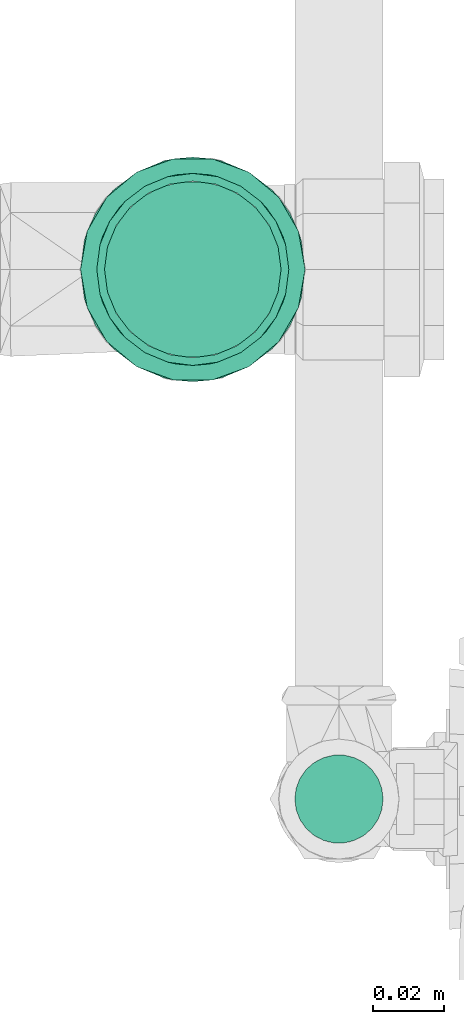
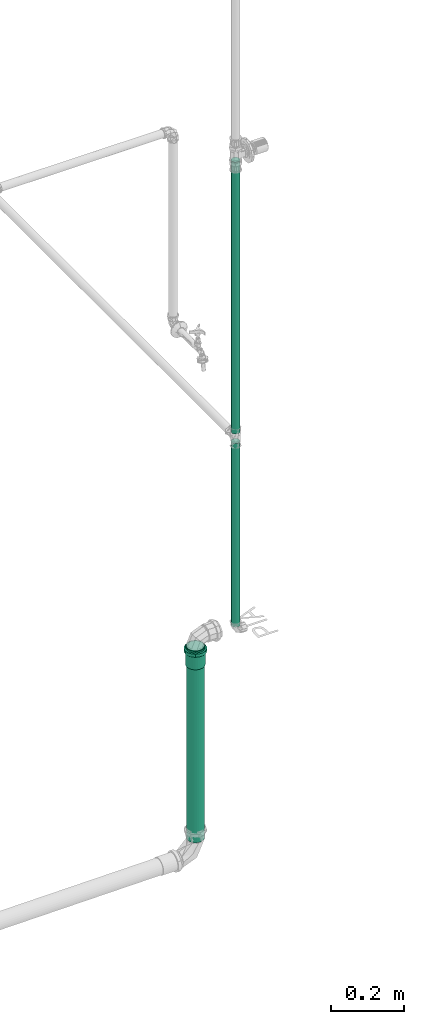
# One storey, part 274 of 589: 3 flow segments, 1 flow fitting.
"""IFC2X3 building model written with IfcOpenShell, lengths in millimetres."""

import ifcopenshell
import ifcopenshell.guid

model = None  # the IFC model being written
_history = None  # IfcOwnerHistory: only IFC2X3 demands one
_inside = {}  # id of a spatial element -> (the spatial element, [elements in it])
_under = {}  # id of a project, library or spatial element -> (it, [spatial elements below it])
_declared = {}  # id of a project -> (the project, [libraries it declares])
_typed = {}  # id of a type object -> (the type object, [elements of that type])
_made_of = {}  # id of a material, layer set ... -> (it, [elements and type objects made of it])


def new_model(schema):
    """Start an empty IFC model of exactly this schema.

    Asked for "IFC4X3", IfcOpenShell would pick the latest addendum, in which some entities
    have other attributes; the version numbers below select the first issue.
    IFC2X3 requires an IfcOwnerHistory on every rooted entity: one is made here for all.
    """
    global model, _history
    if schema == "IFC4X3":
        model = ifcopenshell.file(schema_version=(4, 3, 0, 0))
    else:
        model = ifcopenshell.file(schema=schema)
    _inside.clear()
    _under.clear()
    _declared.clear()
    _typed.clear()
    _made_of.clear()
    _history = None
    if model.schema == "IFC2X3":
        org = make("IfcOrganization", Name="unknown")
        user = make(
            "IfcPersonAndOrganization",
            ThePerson=make("IfcPerson", FamilyName="unknown"),
            TheOrganization=org,
        )
        app = make(
            "IfcApplication",
            ApplicationDeveloper=org,
            Version="unknown",
            ApplicationFullName="unknown",
            ApplicationIdentifier="unknown",
        )
        _history = make(
            "IfcOwnerHistory",
            OwningUser=user,
            OwningApplication=app,
            ChangeAction="ADDED",
            CreationDate=0,
        )
    return model


def make(cls, **values):
    """One entity of the class cls with the attributes given. An attribute that is None is left unset."""
    return model.create_entity(
        cls, **{name: value for name, value in values.items() if value is not None}
    )


def entity(cls, *values):
    """Any entity or typed value of the class cls, its attributes in the order of the schema. None: left unset."""
    e = model.create_entity(cls)
    for i, value in enumerate(values):
        if value is not None:
            e[i] = value
    return e


def rooted(cls, **values):
    """An entity with a GlobalId (a new one), such as an element, a storey or a relation."""
    return make(cls, GlobalId=ifcopenshell.guid.new(), OwnerHistory=_history, **values)


def si_unit(unit_type, name, prefix=None):
    """IfcSIUnit, for example si_unit("LENGTHUNIT", "METRE", prefix="MILLI")."""
    return make("IfcSIUnit", UnitType=unit_type, Prefix=prefix, Name=name)


def converted_unit(unit_type, name, factor, base, dimensions=None, offset=None):
    """IfcConversionBasedUnit, such as the inch: factor (a typed value) times the base unit."""
    return make(
        "IfcConversionBasedUnit"
        if offset is None
        else "IfcConversionBasedUnitWithOffset",
        ConversionOffset=offset,
        Dimensions=None
        if dimensions is None
        else entity("IfcDimensionalExponents", *dimensions),
        UnitType=unit_type,
        Name=name,
        ConversionFactor=make(
            "IfcMeasureWithUnit", ValueComponent=factor, UnitComponent=base
        ),
    )


def derived_unit(unit_type, elements):
    """IfcDerivedUnit: a product of units, each with its exponent."""
    return make(
        "IfcDerivedUnit",
        Elements=[
            make("IfcDerivedUnitElement", Unit=unit, Exponent=power)
            for unit, power in elements
        ],
        UnitType=unit_type,
    )


def assignment(units):
    """IfcUnitAssignment: the units of a project."""
    return None if units is None else make("IfcUnitAssignment", Units=units)


def point(xyz):
    """IfcCartesianPoint."""
    return None if xyz is None else make("IfcCartesianPoint", Coordinates=xyz)


def direction(xyz):
    """IfcDirection."""
    return None if xyz is None else make("IfcDirection", DirectionRatios=xyz)


def frame(location, z_axis=None, x_axis=None):
    """IfcAxis2Placement3D, a coordinate frame: its origin and axes. An axis left out is left unset."""
    return make(
        "IfcAxis2Placement3D",
        Location=point(location),
        Axis=direction(z_axis),
        RefDirection=direction(x_axis),
    )


def frame_2d(location, x_axis=None):
    """IfcAxis2Placement2D, a coordinate frame in the plane: its origin and x axis."""
    return make(
        "IfcAxis2Placement2D", Location=point(location), RefDirection=direction(x_axis)
    )


def origin():
    """The frame at (0, 0, 0) with its axes left unset."""
    return frame((0.0, 0.0, 0.0))


def origin_2d_with_axis():
    """The frame at (0, 0) in the plane with the x axis (1, 0) written out."""
    return frame_2d((0.0, 0.0), x_axis=(1.0, 0.0))


def place(relative_to, where):
    """IfcLocalPlacement: puts the frame where relative to a parent placement (None: the world)."""
    return make(
        "IfcLocalPlacement", PlacementRelTo=relative_to, RelativePlacement=where
    )


def context(
    kind, dimensions, precision=None, world=None, true_north=None, identifier=None
):
    """IfcGeometricRepresentationContext, for example the 3D "Model" context."""
    return make(
        "IfcGeometricRepresentationContext",
        ContextIdentifier=identifier,
        ContextType=kind,
        CoordinateSpaceDimension=dimensions,
        Precision=precision,
        WorldCoordinateSystem=world,
        TrueNorth=true_north,
    )


def subcontext(parent, identifier, kind, view, scale=None):
    """IfcGeometricRepresentationSubContext, for example "Body" below "Model"."""
    return make(
        "IfcGeometricRepresentationSubContext",
        ContextIdentifier=identifier,
        ContextType=kind,
        ParentContext=parent,
        TargetScale=scale,
        TargetView=view,
    )


def project(units=None, contexts=None):
    """IfcProject with its units and contexts."""
    return rooted(
        "IfcProject",
        Name="project",
        RepresentationContexts=contexts,
        UnitsInContext=assignment(units),
    )


def spatial(cls, under=None, at=None, **own):
    """A site, building, storey or space (cls), placed at a placement, below another one or the project."""
    s = rooted(cls, ObjectPlacement=at, **own)
    if under is not None:
        _under.setdefault(under.id(), (under, []))[1].append(s)
    return s


def profile(cls, at=None, kind="AREA", **sizes):
    """A parametric profile (cls). Its sizes go by their IFC names, for example OverallWidth=200.0."""
    return make(cls, ProfileType=kind, Position=at, **sizes)


def circle(**sizes):
    """IfcCircleProfileDef."""
    return profile("IfcCircleProfileDef", **sizes)


def extrude(swept, where, along, depth):
    """IfcExtrudedAreaSolid: the profile swept, set in the frame where, extruded along a direction by depth."""
    return make(
        "IfcExtrudedAreaSolid",
        SweptArea=swept,
        Position=where,
        ExtrudedDirection=direction(along),
        Depth=depth,
    )


def faces_of(points, faces, orient=None, outer=None):
    """IfcFace entities. A face is a list of loops; a loop is a list of indices into points, from 0.

    orient and outer hold one flag for each loop. By default every Orientation is true, the
    first loop of a face is its IfcFaceOuterBound and the others are IfcFaceBound.
    """
    made = []
    for i, loops in enumerate(faces):
        bounds = []
        for j, loop in enumerate(loops):
            is_outer = j == 0 if outer is None else outer[i][j]
            bounds.append(
                make(
                    "IfcFaceOuterBound" if is_outer else "IfcFaceBound",
                    Bound=make("IfcPolyLoop", Polygon=[points[k] for k in loop]),
                    Orientation=True if orient is None else orient[i][j],
                )
            )
        made.append(make("IfcFace", Bounds=bounds))
    return made


def faceted_brep(points, faces, orient=None, outer=None, voids=None):
    """IfcFacetedBrep: a solid bounded by flat faces; with voids (closed shells), ...WithVoids."""
    shared = [point(p) for p in points]
    hull = make("IfcClosedShell", CfsFaces=faces_of(shared, faces, orient, outer))
    if voids is None:
        return make("IfcFacetedBrep", Outer=hull)
    return make(
        "IfcFacetedBrepWithVoids",
        Outer=hull,
        Voids=[
            make(cls, CfsFaces=faces_of(shared, fs, o, b)) for cls, fs, o, b in voids
        ],
    )


def shape(context_of_items, identifier, shape_type, items):
    """IfcShapeRepresentation: the items that make up one representation, for example the "Body"."""
    return make(
        "IfcShapeRepresentation",
        ContextOfItems=context_of_items,
        RepresentationIdentifier=identifier,
        RepresentationType=shape_type,
        Items=items,
    )


def source(mapping_origin, context_of_items, identifier, shape_type, items):
    """IfcRepresentationMap: a shape defined once, which mapped items show again and again."""
    return make(
        "IfcRepresentationMap",
        MappingOrigin=mapping_origin,
        MappedRepresentation=shape(context_of_items, identifier, shape_type, items),
    )


def transform(
    local_origin,
    x_axis=None,
    y_axis=None,
    z_axis=None,
    scale=None,
    scale2=None,
    scale3=None,
    uniform=True,
):
    """IfcCartesianTransformationOperator3D, or its non-uniform kind. x_axis, y_axis, z_axis: its Axis1, 2, 3."""
    if uniform:
        return make(
            "IfcCartesianTransformationOperator3D",
            Axis1=direction(x_axis),
            Axis2=direction(y_axis),
            LocalOrigin=point(local_origin),
            Scale=scale,
            Axis3=direction(z_axis),
        )
    return make(
        "IfcCartesianTransformationOperator3DnonUniform",
        Axis1=direction(x_axis),
        Axis2=direction(y_axis),
        LocalOrigin=point(local_origin),
        Scale=scale,
        Axis3=direction(z_axis),
        Scale2=scale2,
        Scale3=scale3,
    )


def mapped(mapping_source, mapping_target):
    """IfcMappedItem: shows the shape of a source again, moved by a transform."""
    return make(
        "IfcMappedItem", MappingSource=mapping_source, MappingTarget=mapping_target
    )


def material(Name=None, Category=None):
    """IfcMaterial."""
    return make("IfcMaterial", Name=Name, Category=Category)


def made_of(thing, what):
    """Note that an element or type object is made of a material, layer set ...; save() writes the relation."""
    if what is not None:
        _made_of.setdefault(what.id(), (what, []))[1].append(thing)
    return thing


def type_object(cls, material=None, **own):
    """A type object (cls), such as IfcWallType, which elements share."""
    return made_of(rooted(cls, **own), material)


def type_shapes(of_type, sources):
    """Give a type object the sources (RepresentationMaps) that its elements show as mapped items."""
    of_type.RepresentationMaps = sources


def element(
    cls,
    number,
    at=None,
    inside=None,
    cuts=None,
    type_object=None,
    material=None,
    context=None,
    identifier="Body",
    shape_type=None,
    held_by="IfcProductDefinitionShape",
    body=None,
    shapes=None,
    **own,
):
    """One element of the class cls, such as IfcWall. Its Tag is "e" and its number.

    at: its placement. inside: the storey or other place that contains it. cuts: it is an
    opening in that element (IfcRelVoidsElement). A single representation is given by context,
    identifier, shape_type and body (its items); several are given by shapes. held_by: the class
    of the entity that holds the representations. save() writes the other relations.
    """
    e = rooted(cls, Tag="e%d" % number, ObjectPlacement=at, **own)
    if body is not None:
        shapes = [shape(context, identifier, shape_type, body)]
    if shapes is not None:
        e.Representation = make(held_by, Representations=shapes)
    if inside is not None:
        _inside.setdefault(inside.id(), (inside, []))[1].append(e)
    if cuts is not None:
        rooted(
            "IfcRelVoidsElement", RelatingBuildingElement=cuts, RelatedOpeningElement=e
        )
    if type_object is not None:
        _typed.setdefault(type_object.id(), (type_object, []))[1].append(e)
    return made_of(e, material)


def aggregate(whole, parts):
    """IfcRelAggregates: a whole, such as a stair, and the parts it consists of."""
    return rooted("IfcRelAggregates", RelatingObject=whole, RelatedObjects=parts)


def save(model, path):
    """Write the relations noted so far, then the file.

    IfcRelAggregates (storeys below a building ...), IfcRelContainedInSpatialStructure (elements
    in a storey), IfcRelDefinesByType, IfcRelAssociatesMaterial and IfcRelDeclares: one each for
    every whole, place, type object, material and project.
    """
    for whole, parts in _under.values():
        aggregate(whole, parts)
    for where, things in _inside.values():
        rooted(
            "IfcRelContainedInSpatialStructure",
            RelatedElements=things,
            RelatingStructure=where,
        )
    for kind, things in _typed.values():
        rooted("IfcRelDefinesByType", RelatedObjects=things, RelatingType=kind)
    for what, things in _made_of.values():
        rooted("IfcRelAssociatesMaterial", RelatedObjects=things, RelatingMaterial=what)
    for by, libraries in _declared.values():
        rooted("IfcRelDeclares", RelatingContext=by, RelatedDefinitions=libraries)
    model.write(path)


model = new_model("IFC2X3")

# Units and contexts
model_context = context("Model", 3, precision=0.01, world=origin(), true_north=direction((6.123031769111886e-17, 1.0)))
body_context = subcontext(model_context, "Body", "Model", "MODEL_VIEW")
ifc_project = project(units=[si_unit("LENGTHUNIT", "METRE", prefix="MILLI"), si_unit("AREAUNIT", "SQUARE_METRE"), si_unit("VOLUMEUNIT", "CUBIC_METRE"), converted_unit("PLANEANGLEUNIT", "DEGREE", entity("IfcRatioMeasure", 0.017453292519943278), si_unit("PLANEANGLEUNIT", "RADIAN"), dimensions=[0, 0, 0, 0, 0, 0, 0]), si_unit("MASSUNIT", "GRAM", prefix="KILO"), derived_unit("MASSDENSITYUNIT", [(si_unit("MASSUNIT", "GRAM", prefix="KILO"), 1), (si_unit("LENGTHUNIT", "METRE"), -3)]), derived_unit("IONCONCENTRATIONUNIT", [(si_unit("MASSUNIT", "GRAM", prefix="KILO"), 1), (si_unit("LENGTHUNIT", "METRE"), -3)]), derived_unit("MOMENTOFINERTIAUNIT", [(si_unit("LENGTHUNIT", "METRE"), 4)]), si_unit("TIMEUNIT", "SECOND"), si_unit("FREQUENCYUNIT", "HERTZ"), si_unit("THERMODYNAMICTEMPERATUREUNIT", "DEGREE_CELSIUS"), derived_unit("THERMALTRANSMITTANCEUNIT", [(si_unit("MASSUNIT", "GRAM", prefix="KILO"), 1), (si_unit("THERMODYNAMICTEMPERATUREUNIT", "KELVIN"), -1), (si_unit("TIMEUNIT", "SECOND"), -3)]), derived_unit("THERMALCONDUCTANCEUNIT", [(si_unit("MASSUNIT", "GRAM", prefix="KILO"), 1), (si_unit("THERMODYNAMICTEMPERATUREUNIT", "KELVIN"), -1), (si_unit("TIMEUNIT", "SECOND"), -3), (si_unit("LENGTHUNIT", "METRE"), 1)]), derived_unit("VOLUMETRICFLOWRATEUNIT", [(si_unit("LENGTHUNIT", "METRE"), 3), (si_unit("TIMEUNIT", "SECOND"), -1)]), derived_unit("MASSFLOWRATEUNIT", [(si_unit("MASSUNIT", "GRAM", prefix="KILO"), 1), (si_unit("TIMEUNIT", "SECOND"), -1)]), derived_unit("ROTATIONALFREQUENCYUNIT", [(si_unit("TIMEUNIT", "SECOND"), -1)]), si_unit("ELECTRICCURRENTUNIT", "AMPERE"), si_unit("ELECTRICVOLTAGEUNIT", "VOLT"), si_unit("POWERUNIT", "WATT"), si_unit("FORCEUNIT", "NEWTON", prefix="KILO"), si_unit("ILLUMINANCEUNIT", "LUX"), si_unit("LUMINOUSFLUXUNIT", "LUMEN"), si_unit("LUMINOUSINTENSITYUNIT", "CANDELA"), derived_unit("USERDEFINED", [(si_unit("MASSUNIT", "GRAM", prefix="KILO"), -1), (si_unit("LENGTHUNIT", "METRE"), -2), (si_unit("TIMEUNIT", "SECOND"), 3), (si_unit("LUMINOUSFLUXUNIT", "LUMEN"), 1)]), derived_unit("USERDEFINED", [(si_unit("MASSUNIT", "GRAM", prefix="KILO"), 1), (si_unit("TIMEUNIT", "SECOND"), -3), (si_unit("LENGTHUNIT", "METRE"), 3), (si_unit("ELECTRICCURRENTUNIT", "AMPERE"), -2)]), derived_unit("SOUNDPOWERUNIT", [(si_unit("MASSUNIT", "GRAM", prefix="KILO"), 1), (si_unit("TIMEUNIT", "SECOND"), -3), (si_unit("LENGTHUNIT", "METRE"), 2)]), derived_unit("SOUNDPRESSUREUNIT", [(si_unit("MASSUNIT", "GRAM", prefix="KILO"), 1), (si_unit("LENGTHUNIT", "METRE"), -1), (si_unit("TIMEUNIT", "SECOND"), -2)]), derived_unit("LINEARVELOCITYUNIT", [(si_unit("LENGTHUNIT", "METRE"), 1), (si_unit("TIMEUNIT", "SECOND"), -1)]), si_unit("PRESSUREUNIT", "PASCAL"), derived_unit("USERDEFINED", [(si_unit("MASSUNIT", "GRAM", prefix="KILO"), 1), (si_unit("LENGTHUNIT", "METRE"), -2), (si_unit("TIMEUNIT", "SECOND"), -2)]), derived_unit("LINEARFORCEUNIT", [(si_unit("MASSUNIT", "GRAM", prefix="KILO"), 1), (si_unit("TIMEUNIT", "SECOND"), -2)]), derived_unit("PLANARFORCEUNIT", [(si_unit("MASSUNIT", "GRAM", prefix="KILO"), 1), (si_unit("LENGTHUNIT", "METRE"), -1), (si_unit("TIMEUNIT", "SECOND"), -2)]), derived_unit("SPECIFICHEATCAPACITYUNIT", [(si_unit("THERMODYNAMICTEMPERATUREUNIT", "KELVIN"), -1), (si_unit("LENGTHUNIT", "METRE"), 2), (si_unit("TIMEUNIT", "SECOND"), -2)]), derived_unit("HEATINGVALUEUNIT", [(si_unit("LENGTHUNIT", "METRE"), 2), (si_unit("TIMEUNIT", "SECOND"), -2)]), derived_unit("VAPORPERMEABILITYUNIT", [(si_unit("LENGTHUNIT", "METRE"), -1), (si_unit("TIMEUNIT", "SECOND"), 1)]), derived_unit("DYNAMICVISCOSITYUNIT", [(si_unit("MASSUNIT", "GRAM", prefix="KILO"), 1), (si_unit("TIMEUNIT", "SECOND"), -1), (si_unit("LENGTHUNIT", "METRE"), -1)]), derived_unit("THERMALEXPANSIONCOEFFICIENTUNIT", [(si_unit("THERMODYNAMICTEMPERATUREUNIT", "KELVIN"), -1)]), derived_unit("MODULUSOFELASTICITYUNIT", [(si_unit("MASSUNIT", "GRAM", prefix="KILO"), 1), (si_unit("LENGTHUNIT", "METRE"), -1), (si_unit("TIMEUNIT", "SECOND"), -2)]), derived_unit("ISOTHERMALMOISTURECAPACITYUNIT", [(si_unit("LENGTHUNIT", "METRE"), 3), (si_unit("MASSUNIT", "GRAM", prefix="KILO"), -1)]), derived_unit("MOISTUREDIFFUSIVITYUNIT", [(si_unit("TIMEUNIT", "SECOND"), -1), (si_unit("LENGTHUNIT", "METRE"), 2)])], contexts=[model_context])

# Site, building, storey
site_placement = place(None, origin())
site = spatial("IfcSite", under=ifc_project, at=site_placement, Name="Default", CompositionType="ELEMENT")
building_placement = place(site_placement, origin())
building = spatial("IfcBuilding", under=site, at=building_placement, CompositionType="ELEMENT")
storey_placement = place(building_placement, frame((0.0, 0.0, 100.0)))
storey = spatial("IfcBuildingStorey", under=building, at=storey_placement, Name="TÉRREO", CompositionType="ELEMENT", Elevation=100.0)

# Flow segments
pipe_segment_type_1 = type_object("IfcPipeSegmentType", Name="Tipos de tubos:PVC Esgoto Série Normal", PredefinedType="NOTDEFINED")
flow_segment_1_placement = place(storey_placement, origin())
element("IfcFlowSegment", 1, at=flow_segment_1_placement, inside=storey, type_object=pipe_segment_type_1, Name="Tipos de tubos:PVC Esgoto Série Normal", ObjectType="Tipos de tubos:PVC Esgoto Série Normal", context=body_context, shape_type="SweptSolid", body=[
    extrude(circle(Radius=25.0, at=origin_2d_with_axis()), frame((-508.98535366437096, 6334.222132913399, -196.51740006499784)), (0.0, 0.0, 1.0), 645.3174000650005),
])
pipe_segment_type_2 = type_object("IfcPipeSegmentType", Name="Tipos de tubos:PVC Marrom Soldável", PredefinedType="NOTDEFINED")
flow_segment_2_placement = place(storey_placement, origin())
element("IfcFlowSegment", 2, at=flow_segment_2_placement, inside=storey, type_object=pipe_segment_type_2, Name="Tipos de tubos:PVC Marrom Soldável", ObjectType="Tipos de tubos:PVC Marrom Soldável", context=body_context, shape_type="SweptSolid", body=[
    extrude(circle(Radius=12.5, at=frame_2d((6.767919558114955e-14, 0.0), x_axis=(1.0, 0.0))), frame((-467.5853536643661, 6184.222132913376, 1245.9000000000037), z_axis=(0.0, 0.0, 1.0), x_axis=(-1.0, 0.0, 0.0)), (0.0, 0.0, 1.0), 914.1000000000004),
])
flow_segment_3_placement = place(storey_placement, origin())
element("IfcFlowSegment", 3, at=flow_segment_3_placement, inside=storey, type_object=pipe_segment_type_2, Name="Tipos de tubos:PVC Marrom Soldável", ObjectType="Tipos de tubos:PVC Marrom Soldável", context=body_context, shape_type="SweptSolid", body=[
    extrude(circle(Radius=12.5, at=frame_2d((6.767919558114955e-14, 0.0), x_axis=(1.0, 0.0))), frame((-467.5853536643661, 6184.222132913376, 596.3000000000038), z_axis=(0.0, 0.0, 1.0), x_axis=(-1.0, 0.0, 0.0)), (0.0, 0.0, 1.0), 617.8000000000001),
])

# Flow fitting
ifc_material = material(Name="PVC Série Normal")
pipe_fitting_type = type_object("IfcPipeFittingType", Name="PVC Esgoto_Luva Simples para Conexão_Rodrigo MEP:Standard", PredefinedType="NOTDEFINED", material=ifc_material)
shared_shape = source(origin(), body_context, "Body", "Brep", [
    faceted_brep([(16.599999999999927, 15.900000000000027, -27.53960784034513), (16.599999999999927, 22.485995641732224, -22.485995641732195), (16.599999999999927, 13.599999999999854, -23.555890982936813), (16.599999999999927, 7.039878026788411, -26.273182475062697), (16.599999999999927, 8.2304456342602, -30.71644127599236), (16.599999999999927, 19.233304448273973, -19.233304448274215), (16.599999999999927, 27.539607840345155, -15.899999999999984), (16.599999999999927, 23.55589098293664, -13.600000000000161), (16.599999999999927, 26.273182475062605, -7.03987802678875), (16.599999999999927, 30.716441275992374, -8.230445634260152), (16.599999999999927, 27.2, 0.0), (16.599999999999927, 31.8, 0.0), (16.599999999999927, 26.273182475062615, 7.0398780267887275), (16.599999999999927, 30.71644127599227, 8.23044563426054), (16.599999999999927, 23.555890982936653, 13.60000000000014), (16.599999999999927, 27.539607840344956, 15.900000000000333), (16.599999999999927, 19.233304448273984, 19.2333044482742), (16.599999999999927, 22.485995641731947, 22.48599564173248), (16.599999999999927, 13.599999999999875, 23.555890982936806), (16.599999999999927, 15.899999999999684, 27.53960784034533), (16.599999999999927, 7.039878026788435, 26.27318247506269), (16.599999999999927, 8.230445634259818, 30.716441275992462), (16.599999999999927, 0.0, 27.2), (16.599999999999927, 0.0, 31.8), (16.599999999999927, -7.039878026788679, 26.273182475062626), (16.599999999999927, -8.230445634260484, 30.716441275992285), (16.599999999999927, -13.600000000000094, 23.555890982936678), (16.599999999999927, -15.900000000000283, 27.53960784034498), (16.599999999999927, -19.23330444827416, 19.233304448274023), (16.599999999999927, -22.485995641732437, 22.48599564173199), (16.599999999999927, -23.55589098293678, 13.59999999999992), (16.599999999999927, -27.539607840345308, 15.899999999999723), (16.599999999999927, -30.71644127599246, 8.230445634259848), (16.599999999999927, -26.273182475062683, 7.039878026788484), (16.599999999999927, -31.8, 0.0), (16.599999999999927, -27.2, 0.0), (16.599999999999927, -30.71644127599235, -8.23044563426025), (16.599999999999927, -26.273182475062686, -7.03987802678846), (16.599999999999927, -27.53960784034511, -15.90000000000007), (16.599999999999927, -23.55589098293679, -13.599999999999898), (16.599999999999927, -22.485995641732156, -22.485995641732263), (16.599999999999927, -19.233304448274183, -19.233304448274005), (16.599999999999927, -15.899999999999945, -27.53960784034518), (16.599999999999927, -13.600000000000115, -23.555890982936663), (16.599999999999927, -8.230445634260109, -30.716441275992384), (16.599999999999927, -7.039878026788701, -26.273182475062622), (16.599999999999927, 0.0, -31.8), (16.599999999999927, 0.0, -27.2), (6.500000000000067, -10.708108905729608, 29.429219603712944), (6.500000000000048, -24.359073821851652, 20.44200387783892), (6.500000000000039, -27.120498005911, 15.6595386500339), (6.50000000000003, -29.881922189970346, 10.877073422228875), (6.500000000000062, -15.89769721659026, 27.540937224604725), (6.500000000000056, -20.128385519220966, 23.991470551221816), (6.50000000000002, -30.840961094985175, 5.438536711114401), (6.5000000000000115, -31.8, 0.0), (6.50000000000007, -5.518520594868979, 31.317501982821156), (6.500000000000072, 5.526376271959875, 31.316116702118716), (6.50000000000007, 0.00392783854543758, 31.316809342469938), (6.500000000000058, 20.134403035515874, 23.986420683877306), (6.500000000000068, 10.715490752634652, 29.42653259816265), (6.500000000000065, 15.904605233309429, 27.536948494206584), (6.500000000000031, 29.8846497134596, 10.869577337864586), (6.500000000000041, 27.12442527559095, 15.652735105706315), (6.5000000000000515, 24.364200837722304, 20.435892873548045), (6.5000000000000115, 31.8, 0.0), (6.499999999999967, 24.364200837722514, -20.435892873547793), (6.499999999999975, 27.12442527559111, -15.652735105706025), (6.499999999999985, 29.884649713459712, -10.869577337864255), (6.4999999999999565, 15.904605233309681, -27.53694849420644), (6.499999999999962, 20.134403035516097, -23.986420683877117), (6.499999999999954, 10.715490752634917, -29.42653259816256), (6.499999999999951, 5.526376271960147, -31.31611670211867), (6.499999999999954, -5.518520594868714, -31.317501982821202), (6.499999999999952, 0.003927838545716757, -31.316809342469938), (6.499999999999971, -20.128385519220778, -23.99147055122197), (6.499999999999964, -15.897697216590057, -27.54093722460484), (6.499999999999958, -10.70810890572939, -29.42921960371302), (6.499999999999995, -29.881922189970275, -10.877073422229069), (6.499999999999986, -27.12049800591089, -15.659538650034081), (6.499999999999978, -24.359073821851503, -20.442003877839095), (6.500000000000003, -30.840961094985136, -5.438536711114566), (6.499999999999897, -30.696173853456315, -6.259599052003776), (62.0, 13.600000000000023, -23.55589098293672), (62.0, 19.233304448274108, -19.23330444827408), (62.0, 12.499999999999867, -21.650635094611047), (62.0, 6.470476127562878, -24.14814565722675), (62.0, 7.039878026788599, -26.273182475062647), (62.0, 17.677669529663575, -17.677669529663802), (62.0, 23.55589098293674, -13.599999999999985), (62.0, 21.65063509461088, -12.50000000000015), (62.0, 24.148145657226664, -6.470476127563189), (62.0, 26.27318247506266, -7.039878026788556), (62.0, 25.0, 0.0), (62.0, 27.2, 0.0), (62.0, 24.148145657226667, 6.4704761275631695), (62.0, 26.273182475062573, 7.03987802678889), (62.0, 21.650635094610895, 12.500000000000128), (62.0, 23.555890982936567, 13.600000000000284), (62.0, 17.67766952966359, 17.67766952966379), (62.0, 19.233304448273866, 19.233304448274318), (62.0, 12.499999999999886, 21.650635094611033), (62.0, 13.59999999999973, 23.55589098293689), (62.0, 6.4704761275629, 24.14814565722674), (62.0, 7.039878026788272, 26.273182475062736), (62.0, 0.0, 25.0), (62.0, 0.0, 27.2), (62.0, -6.470476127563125, 24.148145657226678), (62.0, -7.039878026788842, 26.273182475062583), (62.0, -12.500000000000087, 21.650635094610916), (62.0, -13.600000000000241, 23.555890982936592), (62.0, -17.677669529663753, 17.677669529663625), (62.0, -19.233304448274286, 19.2333044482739), (62.0, -21.65063509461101, 12.499999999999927), (62.0, -23.555890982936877, 13.599999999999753), (62.0, -26.27318247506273, 7.039878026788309), (62.0, -24.14814565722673, 6.470476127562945), (62.0, -27.2, 0.0), (62.0, -25.0, 0.0), (62.0, -26.27318247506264, -7.0398780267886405), (62.0, -24.148145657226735, -6.470476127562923), (62.0, -23.5558909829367, -13.600000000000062), (62.0, -21.650635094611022, -12.499999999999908), (62.0, -19.233304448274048, -19.233304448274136), (62.0, -17.67766952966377, -17.677669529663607), (62.0, -13.599999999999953, -23.555890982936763), (62.0, -12.500000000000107, -21.650635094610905), (62.0, -7.039878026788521, -26.27318247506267), (62.0, -6.470476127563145, -24.148145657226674), (62.0, 0.0, -27.2), (62.0, 0.0, -25.0), (0.0, 12.499999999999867, -21.650635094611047), (0.0, 19.233304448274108, -19.23330444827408), (0.0, 13.600000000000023, -23.55589098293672), (0.0, 6.470476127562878, -24.14814565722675), (0.0, 17.677669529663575, -17.677669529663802), (0.0, 23.55589098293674, -13.599999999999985), (0.0, 21.65063509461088, -12.50000000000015), (0.0, 24.148145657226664, -6.470476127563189), (0.0, 26.27318247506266, -7.039878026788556), (0.0, 25.0, 0.0), (0.0, 27.2, 0.0), (0.0, 24.148145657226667, 6.4704761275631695), (0.0, 26.273182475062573, 7.03987802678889), (0.0, 21.650635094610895, 12.500000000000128), (0.0, 23.555890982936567, 13.600000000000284), (0.0, 17.67766952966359, 17.67766952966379), (0.0, 19.233304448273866, 19.233304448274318), (0.0, 12.499999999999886, 21.650635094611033), (0.0, 13.59999999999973, 23.55589098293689), (0.0, 6.4704761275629, 24.14814565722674), (0.0, 7.039878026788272, 26.273182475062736), (0.0, 0.0, 25.0), (0.0, 0.0, 27.2), (0.0, -6.470476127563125, 24.148145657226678), (0.0, -7.039878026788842, 26.273182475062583), (0.0, -12.500000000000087, 21.650635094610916), (0.0, -13.600000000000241, 23.555890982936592), (0.0, -17.677669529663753, 17.677669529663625), (0.0, -19.233304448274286, 19.2333044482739), (0.0, -21.65063509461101, 12.499999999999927), (0.0, -23.555890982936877, 13.599999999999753), (0.0, -26.27318247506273, 7.039878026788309), (0.0, -24.14814565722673, 6.470476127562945), (0.0, -27.2, 0.0), (0.0, -25.0, 0.0), (0.0, -26.27318247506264, -7.0398780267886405), (0.0, -24.148145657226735, -6.470476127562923), (0.0, -23.5558909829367, -13.600000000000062), (0.0, -21.650635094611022, -12.499999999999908), (0.0, -19.233304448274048, -19.233304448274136), (0.0, -17.67766952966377, -17.677669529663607), (0.0, -13.599999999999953, -23.555890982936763), (0.0, -12.500000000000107, -21.650635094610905), (0.0, -7.039878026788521, -26.27318247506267), (0.0, -6.470476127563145, -24.148145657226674), (0.0, 0.0, -27.2), (0.0, 0.0, -25.0), (0.0, 7.039878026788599, -26.273182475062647), (5.300000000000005, -26.37968999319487, 4.651830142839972), (5.299999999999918, -26.25584678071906, 5.354122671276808), (5.300000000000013, -25.559379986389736, 9.303660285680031), (5.300000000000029, -20.835434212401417, 17.48498444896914), (5.300000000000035, -17.216732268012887, 20.521006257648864), (5.300000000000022, -23.19740709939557, 13.394322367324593), (5.3000000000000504, -4.720244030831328, 26.787297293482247), (5.300000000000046, -9.15913717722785, 25.172162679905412), (5.299999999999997, -27.2, 0.0), (5.300000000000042, -13.598030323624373, 23.557028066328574), (5.300000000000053, 9.165451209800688, 25.169864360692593), (5.300000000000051, 13.603939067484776, 23.55361632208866), (5.300000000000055, 4.7269633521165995, 26.786112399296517), (5.300000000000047, 17.221879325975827, 20.516686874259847), (5.300000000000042, 20.839819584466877, 17.479757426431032), (5.3000000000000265, 25.56171296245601, 9.297248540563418), (5.299999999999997, 27.2, 0.0), (5.3000000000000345, 23.20076627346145, 13.388502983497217), (5.300000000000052, 0.003359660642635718, 26.786704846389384), (5.299999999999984, 25.56171296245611, -9.29724854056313), (5.299999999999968, 20.839819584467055, -17.47975742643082), (5.2999999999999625, 17.22187932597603, -20.516686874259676), (5.299999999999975, 23.200766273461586, -13.388502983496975), (5.299999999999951, 4.726963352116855, -26.78611239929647), (5.2999999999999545, 9.165451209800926, -25.169864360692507), (5.299999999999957, 13.603939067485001, -23.553616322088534), (5.29999999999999, -26.379689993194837, -4.651830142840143), (5.299999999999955, -9.159137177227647, -25.17216267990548), (5.299999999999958, -13.5980303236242, -23.55702806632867), (5.299999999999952, -4.720244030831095, -26.787297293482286), (5.299999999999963, -17.216732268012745, -20.52100625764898), (5.299999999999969, -20.83543421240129, -17.484984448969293), (5.299999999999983, -25.559379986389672, -9.303660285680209), (5.299999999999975, -23.197407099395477, -13.394322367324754), (5.299999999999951, 0.003359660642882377, -26.78670484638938), (39.0, -25.0, 0.0), (39.0, 25.0, 0.0)], [[[0, 1, 2]], [[0, 2, 3]], [[3, 4, 0]], [[2, 1, 5]], [[6, 5, 1]], [[7, 5, 6]], [[8, 7, 6]], [[8, 6, 9]], [[8, 9, 10]], [[10, 9, 11]], [[12, 10, 11]], [[12, 11, 13]], [[14, 12, 13]], [[14, 13, 15]], [[16, 14, 15]], [[15, 17, 16]], [[17, 18, 16]], [[17, 19, 18]], [[18, 19, 20]], [[21, 20, 19]], [[20, 21, 22]], [[22, 21, 23]], [[22, 23, 24]], [[24, 23, 25]], [[24, 25, 26]], [[27, 26, 25]], [[27, 28, 26]], [[28, 27, 29]], [[30, 28, 29]], [[31, 30, 29]], [[32, 30, 31]], [[33, 30, 32]], [[33, 32, 34]], [[35, 33, 34]], [[36, 35, 34]], [[36, 37, 35]], [[37, 36, 38]], [[39, 37, 38]], [[39, 38, 40]], [[39, 40, 41]], [[40, 42, 41]], [[41, 42, 43]], [[43, 42, 44]], [[44, 45, 43]], [[46, 45, 44]], [[4, 47, 46]], [[46, 47, 45]], [[4, 3, 47]], [[48, 27, 25]], [[31, 29, 49]], [[31, 49, 50, 51]], [[52, 53, 27]], [[32, 51, 54]], [[54, 55, 34]], [[54, 34, 32]], [[25, 56, 48]], [[49, 29, 53]], [[23, 57, 58, 56]], [[59, 19, 17]], [[27, 53, 29]], [[48, 52, 27]], [[31, 51, 32]], [[57, 23, 21]], [[60, 19, 61]], [[15, 62, 63, 64]], [[19, 60, 21]], [[15, 13, 62]], [[17, 64, 59]], [[57, 21, 60]], [[23, 56, 25]], [[15, 64, 17]], [[13, 65, 62]], [[13, 11, 65]], [[59, 61, 19]], [[65, 11, 9]], [[6, 1, 66]], [[6, 66, 67, 68]], [[69, 70, 0]], [[68, 65, 9]], [[71, 69, 0]], [[71, 0, 4]], [[4, 72, 71]], [[66, 1, 70]], [[46, 73, 74, 72]], [[75, 76, 42]], [[0, 70, 1]], [[75, 42, 40]], [[6, 68, 9]], [[73, 46, 44]], [[77, 42, 76]], [[38, 78, 79, 80]], [[42, 77, 44]], [[38, 36, 78]], [[40, 80, 75]], [[73, 44, 77]], [[46, 72, 4]], [[38, 80, 40]], [[36, 81, 82, 78]], [[55, 81, 34]], [[34, 81, 36]], [[83, 84, 85]], [[83, 85, 86]], [[86, 87, 83]], [[85, 84, 88]], [[89, 88, 84]], [[88, 89, 90]], [[90, 89, 91]], [[92, 91, 89]], [[92, 93, 91]], [[93, 92, 94]], [[95, 93, 94]], [[94, 96, 95]], [[95, 96, 97]], [[98, 97, 96]], [[97, 98, 99]], [[99, 98, 100]], [[101, 99, 100]], [[100, 102, 101]], [[101, 102, 103]], [[104, 103, 102]], [[103, 104, 105]], [[105, 104, 106]], [[105, 106, 107]], [[107, 106, 108]], [[107, 108, 109]], [[110, 109, 108]], [[110, 111, 109]], [[111, 110, 112]], [[112, 113, 111]], [[114, 113, 112]], [[113, 114, 115]], [[115, 116, 113]], [[117, 116, 115]], [[117, 118, 116]], [[119, 118, 117]], [[119, 120, 118]], [[120, 119, 121]], [[121, 122, 120]], [[122, 121, 123]], [[122, 123, 124]], [[123, 125, 124]], [[124, 125, 126]], [[126, 125, 127]], [[127, 128, 126]], [[129, 128, 127]], [[87, 130, 129]], [[129, 130, 128]], [[87, 86, 130]], [[131, 132, 133]], [[134, 131, 133]], [[135, 132, 131]], [[132, 135, 136]], [[137, 136, 135]], [[138, 136, 137]], [[136, 138, 139]], [[138, 140, 139]], [[141, 139, 140]], [[141, 140, 142]], [[142, 143, 141]], [[144, 143, 142]], [[143, 144, 145]], [[146, 145, 144]], [[147, 145, 146]], [[147, 146, 148]], [[148, 149, 147]], [[150, 149, 148]], [[149, 150, 151]], [[152, 151, 150]], [[153, 151, 152]], [[154, 153, 152]], [[155, 153, 154]], [[156, 155, 154]], [[155, 156, 157]], [[156, 158, 157]], [[159, 157, 158]], [[158, 160, 159]], [[159, 160, 161]], [[162, 161, 160]], [[160, 163, 162]], [[162, 163, 164]], [[163, 165, 164]], [[164, 165, 166]], [[165, 167, 166]], [[168, 166, 167]], [[167, 169, 168]], [[170, 168, 169]], [[171, 170, 169]], [[171, 172, 170]], [[173, 172, 171]], [[174, 172, 173]], [[173, 175, 174]], [[174, 175, 176]], [[175, 177, 176]], [[177, 134, 178]], [[176, 177, 178]], [[133, 178, 134]], [[162, 179, 180, 181]], [[159, 182, 183]], [[182, 161, 181, 184]], [[185, 155, 186]], [[161, 162, 181]], [[187, 179, 164]], [[183, 188, 157]], [[183, 157, 159]], [[161, 182, 159]], [[189, 190, 149]], [[189, 149, 151]], [[157, 188, 186]], [[157, 186, 155]], [[153, 155, 185]], [[164, 179, 162]], [[151, 191, 189]], [[147, 192, 193]], [[143, 194, 195]], [[194, 145, 193, 196]], [[143, 195, 141]], [[10, 12, 96, 94]], [[149, 192, 147]], [[153, 185, 197, 191]], [[153, 191, 151]], [[145, 147, 193]], [[190, 192, 149]], [[145, 194, 143]], [[139, 195, 198]], [[132, 199, 200]], [[199, 136, 198, 201]], [[202, 178, 203]], [[136, 139, 198]], [[139, 141, 195]], [[92, 8, 10, 94]], [[133, 203, 178]], [[200, 204, 133]], [[136, 199, 132]], [[205, 164, 166]], [[206, 207, 172]], [[133, 204, 203]], [[206, 172, 174]], [[176, 178, 202]], [[200, 133, 132]], [[174, 208, 206]], [[170, 209, 210]], [[166, 211, 205]], [[211, 168, 210, 212]], [[168, 211, 166]], [[172, 209, 170]], [[176, 202, 213, 208]], [[176, 208, 174]], [[168, 170, 210]], [[207, 209, 172]], [[205, 187, 164]], [[116, 118, 214, 165, 163]], [[156, 109, 111, 158]], [[111, 113, 160, 158]], [[113, 116, 163, 160]], [[107, 109, 156, 154]], [[154, 152, 105, 107]], [[103, 105, 152, 150]], [[103, 150, 148, 101]], [[142, 95, 97, 144]], [[97, 99, 146, 144]], [[99, 101, 148, 146]], [[93, 95, 142, 140, 215]], [[215, 140, 138, 91, 93]], [[135, 131, 85, 88]], [[90, 91, 138, 137]], [[90, 137, 135, 88]], [[86, 85, 131, 134]], [[134, 177, 130, 86]], [[128, 130, 177, 175]], [[128, 175, 173, 126]], [[167, 120, 122, 169]], [[122, 124, 171, 169]], [[124, 126, 173, 171]], [[118, 120, 167, 165, 214]], [[211, 78, 82, 81, 55, 187, 205]], [[79, 78, 211, 212, 210, 80]], [[75, 80, 210, 209, 207, 76]], [[207, 206, 208, 73, 77, 76]], [[213, 202, 72, 74, 73, 208]], [[203, 204, 69, 71, 72, 202]], [[198, 195, 65, 68]], [[199, 201, 198, 68, 67, 66]], [[204, 200, 199, 66, 70, 69]], [[195, 194, 62, 65]], [[197, 185, 56, 58, 57, 191]], [[63, 62, 194, 196, 193, 64]], [[57, 60, 61, 190, 189, 191]], [[193, 192, 190, 61, 59, 64]], [[48, 56, 185, 186, 188, 52]], [[187, 55, 54, 51, 181, 180, 179]], [[182, 184, 181, 51, 50, 49]], [[188, 183, 182, 49, 53, 52]], [[30, 33, 115, 114]], [[117, 115, 33, 35]], [[26, 28, 112, 110]], [[114, 112, 28, 30]], [[24, 26, 110, 108]], [[108, 106, 22, 24]], [[18, 20, 104, 102]], [[100, 16, 18, 102]], [[12, 14, 98, 96]], [[100, 98, 14, 16]], [[104, 20, 22, 106]], [[89, 7, 8, 92]], [[83, 87, 3, 2]], [[7, 89, 84, 5]], [[83, 2, 5, 84]], [[87, 129, 47, 3]], [[43, 45, 127, 125]], [[123, 41, 43, 125]], [[37, 39, 121, 119]], [[123, 121, 39, 41]], [[35, 37, 119, 117]], [[127, 45, 47, 129]]]),
])
type_shapes(pipe_fitting_type, [shared_shape])
flow_fitting_placement = place(storey_placement, frame((-508.9853536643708, 6334.222132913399, 448.80000000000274), z_axis=(0.0, -1.0, 0.0), x_axis=(0.0, 0.0, -1.0)))
element("IfcFlowFitting", 4, at=flow_fitting_placement, inside=storey, type_object=pipe_fitting_type, material=ifc_material, Name="PVC Esgoto_Luva Simples para Conexão_Rodrigo MEP:Standard", ObjectType="PVC Esgoto_Luva Simples para Conexão_Rodrigo MEP:Standard", context=body_context, shape_type="MappedRepresentation", body=[
    mapped(shared_shape, transform((0.0, 0.0, 0.0), scale=1.0)),
])

save(model, "model.ifc")
